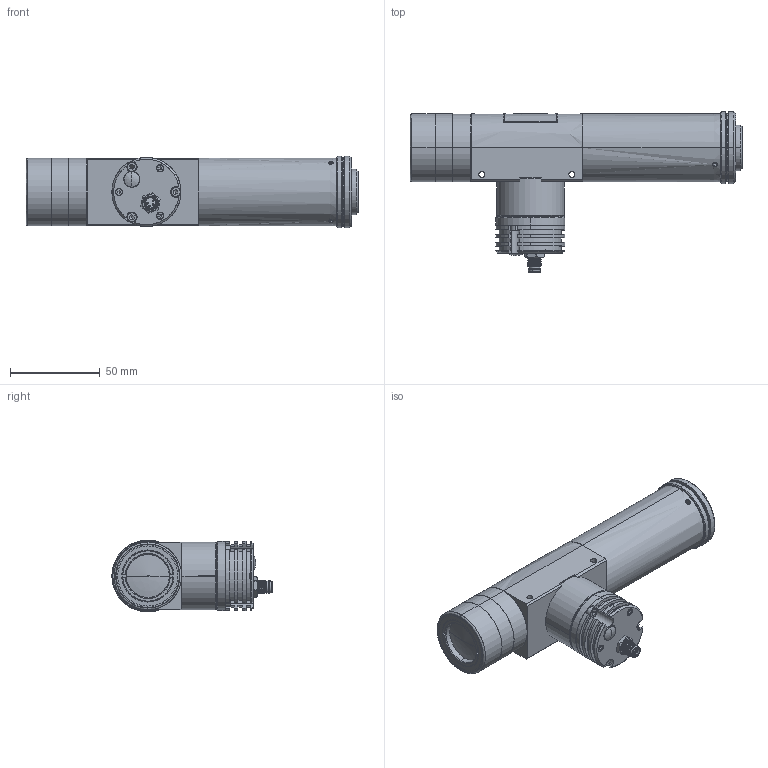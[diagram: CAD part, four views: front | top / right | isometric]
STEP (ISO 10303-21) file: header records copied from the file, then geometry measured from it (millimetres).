
FILE_DESCRIPTION(('LS-TCL-0404'),'2;1');
FILE_NAME('LS-TCL-0404.stp','2026-10-15T21:56:43',('LumaSpec Vision'),('LumaSpec Vision'),'LumaSpec Vision','LumaSpec Vision','');
FILE_SCHEMA(('AUTOMOTIVE_DESIGN { 1 0 10303 214 1 1 1 1 }'));
Length unit declared in the file: millimetre
Products named in the file (387): LumaSpec Vision
Assembly tree (386 placements, depth 2):
  LumaSpec Vision
    LumaSpec Vision
    LumaSpec Vision
    LumaSpec Vision
    LumaSpec Vision
    LumaSpec Vision
    LumaSpec Vision
    LumaSpec Vision
    LumaSpec Vision
    LumaSpec Vision
    LumaSpec Vision
    LumaSpec Vision
    LumaSpec Vision
    LumaSpec Vision
    LumaSpec Vision
    LumaSpec Vision
    LumaSpec Vision
    LumaSpec Vision
    LumaSpec Vision
    LumaSpec Vision
    LumaSpec Vision
    LumaSpec Vision
    LumaSpec Vision
    LumaSpec Vision
    LumaSpec Vision
    LumaSpec Vision
    LumaSpec Vision
    LumaSpec Vision
    LumaSpec Vision
    LumaSpec Vision
    LumaSpec Vision
    LumaSpec Vision
    LumaSpec Vision
    LumaSpec Vision
    LumaSpec Vision
    LumaSpec Vision
    LumaSpec Vision
    LumaSpec Vision
    LumaSpec Vision
    LumaSpec Vision
    LumaSpec Vision
    LumaSpec Vision
    LumaSpec Vision
    LumaSpec Vision
    LumaSpec Vision
    LumaSpec Vision
    LumaSpec Vision
    LumaSpec Vision
    LumaSpec Vision
    LumaSpec Vision
    LumaSpec Vision
    LumaSpec Vision
    LumaSpec Vision
    LumaSpec Vision
    LumaSpec Vision
    LumaSpec Vision
    LumaSpec Vision
    LumaSpec Vision
    LumaSpec Vision
    LumaSpec Vision
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Bounding box: 184.99 x 89.22 x 40 mm (x, y, z)
Surface area: 41024.7 mm2 (no closed solid volume)
Topology: 0 solids, 386 shells, 386 faces, 6247 edges, 6228 vertices
Faces by surface type: bspline 241, revolution 145
Entity records: 106653 total; most frequent: CARTESIAN_POINT 44504, B_SPLINE_CURVE_WITH_KNOTS 11179, ORIENTED_EDGE 6228, EDGE_CURVE 6228, VERTEX_POINT 6228, SURFACE_CURVE 6228, PCURVE 6228, DEFINITIONAL_REPRESENTATION 6228
